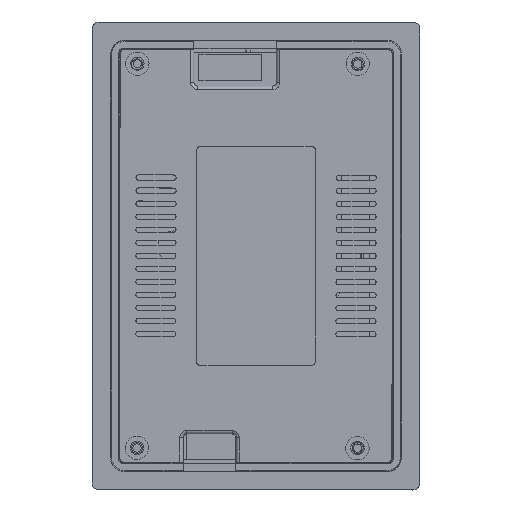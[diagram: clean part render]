
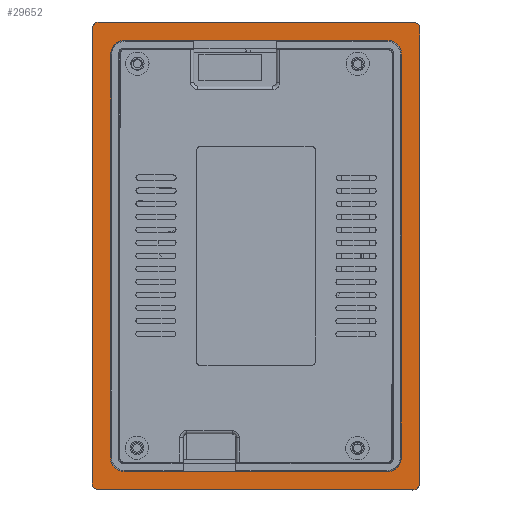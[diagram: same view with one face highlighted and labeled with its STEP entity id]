
A CAD part, top view. The second image highlights one B-rep face of the part: STEP entity #29652.
In plain terms, the highlighted planar face has unit normal (0, 0, 1).
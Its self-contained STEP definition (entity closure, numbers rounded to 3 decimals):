
#8795=CARTESIAN_POINT('',(-44.327,68.107,-2.9));
#8796=DIRECTION('',(0.,0.,1.));
#8797=DIRECTION('',(0.001,1.,0.));
#8798=AXIS2_PLACEMENT_3D('',#8795,#8796,#8797);
#8800=DIRECTION('',(-1.,0.001,0.));
#8801=VECTOR('',#8800,94.);
#8802=CARTESIAN_POINT('',(49.675,70.015,-2.9));
#8803=LINE('',#8802,#8801);
#8804=CARTESIAN_POINT('',(49.673,68.015,-2.9));
#8805=DIRECTION('',(0.,0.,1.));
#8806=DIRECTION('',(1.,-0.001,0.));
#8807=AXIS2_PLACEMENT_3D('',#8804,#8805,#8806);
#8809=DIRECTION('',(0.001,1.,0.));
#8810=VECTOR('',#8809,136.);
#8811=CARTESIAN_POINT('',(51.54,-67.987,-2.9));
#8812=LINE('',#8811,#8810);
#8813=CARTESIAN_POINT('',(49.54,-67.985,-2.9));
#8814=DIRECTION('',(0.,0.,1.));
#8815=DIRECTION('',(-0.001,-1.,0.));
#8816=AXIS2_PLACEMENT_3D('',#8813,#8814,#8815);
#8818=DIRECTION('',(1.,-0.001,0.));
#8819=VECTOR('',#8818,94.);
#8820=CARTESIAN_POINT('',(-44.462,-69.893,-2.9));
#8821=LINE('',#8820,#8819);
#8822=CARTESIAN_POINT('',(-44.46,-67.893,-2.9));
#8823=DIRECTION('',(0.,0.,1.));
#8824=DIRECTION('',(-1.,0.001,0.));
#8825=AXIS2_PLACEMENT_3D('',#8822,#8823,#8824);
#8827=DIRECTION('',(-0.001,-1.,0.));
#8828=VECTOR('',#8827,136.);
#8829=CARTESIAN_POINT('',(-46.327,68.109,-2.9));
#8830=LINE('',#8829,#8828);
#8831=CARTESIAN_POINT('',(-39.634,63.455,-2.9));
#8832=CARTESIAN_POINT('',(-39.381,63.707,-2.9));
#8833=CARTESIAN_POINT('',(-38.807,64.147,-2.9));
#8834=CARTESIAN_POINT('',(-37.807,64.56,-2.9));
#8835=CARTESIAN_POINT('',(-37.09,64.654,-2.9));
#8836=CARTESIAN_POINT('',(-36.733,64.653,-2.9));
#8838=CARTESIAN_POINT('',(-40.837,60.557,-2.9));
#8839=CARTESIAN_POINT('',(-40.837,60.914,-2.9));
#8840=CARTESIAN_POINT('',(-40.742,61.631,-2.9));
#8841=CARTESIAN_POINT('',(-40.327,62.63,-2.9));
#8842=CARTESIAN_POINT('',(-39.886,63.203,-2.9));
#8843=CARTESIAN_POINT('',(-39.634,63.455,-2.9));
#8845=DIRECTION('',(0.001,1.,0.));
#8846=VECTOR('',#8845,120.907);
#8847=CARTESIAN_POINT('',(-40.956,-60.35,-2.9));
#8848=LINE('',#8847,#8846);
#8849=CARTESIAN_POINT('',(-39.758,-63.25,-2.9));
#8850=CARTESIAN_POINT('',(-40.01,-62.997,-2.9));
#8851=CARTESIAN_POINT('',(-40.45,-62.423,-2.9));
#8852=CARTESIAN_POINT('',(-40.863,-61.424,-2.9));
#8853=CARTESIAN_POINT('',(-40.957,-60.707,-2.9));
#8854=CARTESIAN_POINT('',(-40.956,-60.35,-2.9));
#8856=CARTESIAN_POINT('',(-36.861,-64.454,-2.9));
#8857=CARTESIAN_POINT('',(-37.217,-64.453,-2.9));
#8858=CARTESIAN_POINT('',(-37.934,-64.358,-2.9));
#8859=CARTESIAN_POINT('',(-38.933,-63.943,-2.9));
#8860=CARTESIAN_POINT('',(-39.506,-63.503,-2.9));
#8861=CARTESIAN_POINT('',(-39.758,-63.25,-2.9));
#8863=DIRECTION('',(-1.,0.001,0.));
#8864=VECTOR('',#8863,78.807);
#8865=CARTESIAN_POINT('',(41.947,-64.531,-2.9));
#8866=LINE('',#8865,#8864);
#8867=CARTESIAN_POINT('',(44.847,-63.333,-2.9));
#8868=CARTESIAN_POINT('',(44.594,-63.585,-2.9));
#8869=CARTESIAN_POINT('',(44.02,-64.025,-2.9));
#8870=CARTESIAN_POINT('',(43.02,-64.438,-2.9));
#8871=CARTESIAN_POINT('',(42.303,-64.532,-2.9));
#8872=CARTESIAN_POINT('',(41.947,-64.531,-2.9));
#8874=CARTESIAN_POINT('',(46.05,-60.435,-2.9));
#8875=CARTESIAN_POINT('',(46.05,-60.792,-2.9));
#8876=CARTESIAN_POINT('',(45.955,-61.509,-2.9));
#8877=CARTESIAN_POINT('',(45.54,-62.508,-2.9));
#8878=CARTESIAN_POINT('',(45.099,-63.081,-2.9));
#8879=CARTESIAN_POINT('',(44.847,-63.333,-2.9));
#8881=DIRECTION('',(-0.001,-1.,0.));
#8882=VECTOR('',#8881,120.907);
#8883=CARTESIAN_POINT('',(46.169,60.472,-2.9));
#8884=LINE('',#8883,#8882);
#8885=CARTESIAN_POINT('',(44.971,63.372,-2.9));
#8886=CARTESIAN_POINT('',(45.224,63.119,-2.9));
#8887=CARTESIAN_POINT('',(45.663,62.545,-2.9));
#8888=CARTESIAN_POINT('',(46.076,61.546,-2.9));
#8889=CARTESIAN_POINT('',(46.17,60.829,-2.9));
#8890=CARTESIAN_POINT('',(46.169,60.472,-2.9));
#8892=CARTESIAN_POINT('',(42.074,64.576,-2.9));
#8893=CARTESIAN_POINT('',(42.43,64.575,-2.9));
#8894=CARTESIAN_POINT('',(43.147,64.48,-2.9));
#8895=CARTESIAN_POINT('',(44.146,64.065,-2.9));
#8896=CARTESIAN_POINT('',(44.719,63.625,-2.9));
#8897=CARTESIAN_POINT('',(44.971,63.372,-2.9));
#8899=DIRECTION('',(1.,-0.001,0.));
#8900=VECTOR('',#8899,78.807);
#8901=CARTESIAN_POINT('',(-36.733,64.653,-2.9));
#8902=LINE('',#8901,#8900);
#13278=CARTESIAN_POINT('',(-44.325,70.107,-2.9));
#13279=CARTESIAN_POINT('',(-46.327,68.109,-2.9));
#13280=VERTEX_POINT('',#13278);
#13281=VERTEX_POINT('',#13279);
#13282=CARTESIAN_POINT('',(-46.46,-67.891,-2.9));
#13283=VERTEX_POINT('',#13282);
#13284=CARTESIAN_POINT('',(-44.462,-69.893,-2.9));
#13285=VERTEX_POINT('',#13284);
#13286=CARTESIAN_POINT('',(49.538,-69.985,-2.9));
#13287=VERTEX_POINT('',#13286);
#13288=CARTESIAN_POINT('',(51.54,-67.987,-2.9));
#13289=VERTEX_POINT('',#13288);
#13290=CARTESIAN_POINT('',(51.673,68.013,-2.9));
#13291=VERTEX_POINT('',#13290);
#13292=CARTESIAN_POINT('',(49.675,70.015,-2.9));
#13293=VERTEX_POINT('',#13292);
#13294=VERTEX_POINT('',#8831);
#13295=VERTEX_POINT('',#8836);
#13296=CARTESIAN_POINT('',(42.074,64.576,-2.9));
#13297=VERTEX_POINT('',#13296);
#13298=VERTEX_POINT('',#8897);
#13299=VERTEX_POINT('',#8890);
#13300=CARTESIAN_POINT('',(46.05,-60.435,-2.9));
#13301=VERTEX_POINT('',#13300);
#13302=VERTEX_POINT('',#8879);
#13303=VERTEX_POINT('',#8872);
#13304=CARTESIAN_POINT('',(-36.861,-64.454,-2.9));
#13305=VERTEX_POINT('',#13304);
#13306=VERTEX_POINT('',#8861);
#13307=VERTEX_POINT('',#8854);
#13308=CARTESIAN_POINT('',(-40.837,60.557,-2.9));
#13309=VERTEX_POINT('',#13308);
#29615=CARTESIAN_POINT('',(0.,0.,-2.9));
#29616=DIRECTION('',(0.,0.,1.));
#29617=DIRECTION('',(1.,0.,0.));
#29618=AXIS2_PLACEMENT_3D('',#29615,#29616,#29617);
#29619=PLANE('',#29618);
#29621=ORIENTED_EDGE('',*,*,#29620,.F.);
#29623=ORIENTED_EDGE('',*,*,#29622,.F.);
#29625=ORIENTED_EDGE('',*,*,#29624,.F.);
#29627=ORIENTED_EDGE('',*,*,#29626,.F.);
#29629=ORIENTED_EDGE('',*,*,#29628,.F.);
#29631=ORIENTED_EDGE('',*,*,#29630,.F.);
#29633=ORIENTED_EDGE('',*,*,#29632,.F.);
#29635=ORIENTED_EDGE('',*,*,#29634,.F.);
#29636=EDGE_LOOP('',(#29621,#29623,#29625,#29627,#29629,#29631,#29633,#29635));
#29637=FACE_OUTER_BOUND('',#29636,.F.);
#29638=ORIENTED_EDGE('',*,*,#29396,.F.);
#29639=ORIENTED_EDGE('',*,*,#29418,.F.);
#29640=ORIENTED_EDGE('',*,*,#29433,.F.);
#29641=ORIENTED_EDGE('',*,*,#29456,.F.);
#29642=ORIENTED_EDGE('',*,*,#29477,.F.);
#29643=ORIENTED_EDGE('',*,*,#29492,.F.);
#29644=ORIENTED_EDGE('',*,*,#29515,.F.);
#29645=ORIENTED_EDGE('',*,*,#29536,.F.);
#29646=ORIENTED_EDGE('',*,*,#29551,.F.);
#29647=ORIENTED_EDGE('',*,*,#29574,.F.);
#29648=ORIENTED_EDGE('',*,*,#29595,.F.);
#29649=ORIENTED_EDGE('',*,*,#29609,.F.);
#29650=EDGE_LOOP('',(#29638,#29639,#29640,#29641,#29642,#29643,#29644,#29645,
#29646,#29647,#29648,#29649));
#29651=FACE_BOUND('',#29650,.F.);
#8799=CIRCLE('',#8798,2.);
#8808=CIRCLE('',#8807,2.);
#8817=CIRCLE('',#8816,2.);
#8826=CIRCLE('',#8825,2.);
#8837=B_SPLINE_CURVE_WITH_KNOTS('',3,(#8831,#8832,#8833,#8834,#8835,#8836),
.UNSPECIFIED.,.F.,.F.,(4,1,1,4),(0.,0.333,0.667,1.),
.UNSPECIFIED.);
#8844=B_SPLINE_CURVE_WITH_KNOTS('',3,(#8838,#8839,#8840,#8841,#8842,#8843),
.UNSPECIFIED.,.F.,.F.,(4,1,1,4),(0.,0.333,0.667,1.),
.UNSPECIFIED.);
#8855=B_SPLINE_CURVE_WITH_KNOTS('',3,(#8849,#8850,#8851,#8852,#8853,#8854),
.UNSPECIFIED.,.F.,.F.,(4,1,1,4),(0.,0.333,0.667,1.),
.UNSPECIFIED.);
#8862=B_SPLINE_CURVE_WITH_KNOTS('',3,(#8856,#8857,#8858,#8859,#8860,#8861),
.UNSPECIFIED.,.F.,.F.,(4,1,1,4),(0.,0.333,0.667,1.),
.UNSPECIFIED.);
#8873=B_SPLINE_CURVE_WITH_KNOTS('',3,(#8867,#8868,#8869,#8870,#8871,#8872),
.UNSPECIFIED.,.F.,.F.,(4,1,1,4),(0.,0.333,0.667,1.),
.UNSPECIFIED.);
#8880=B_SPLINE_CURVE_WITH_KNOTS('',3,(#8874,#8875,#8876,#8877,#8878,#8879),
.UNSPECIFIED.,.F.,.F.,(4,1,1,4),(0.,0.333,0.667,1.),
.UNSPECIFIED.);
#8891=B_SPLINE_CURVE_WITH_KNOTS('',3,(#8885,#8886,#8887,#8888,#8889,#8890),
.UNSPECIFIED.,.F.,.F.,(4,1,1,4),(0.,0.333,0.667,1.),
.UNSPECIFIED.);
#8898=B_SPLINE_CURVE_WITH_KNOTS('',3,(#8892,#8893,#8894,#8895,#8896,#8897),
.UNSPECIFIED.,.F.,.F.,(4,1,1,4),(0.,0.333,0.667,1.),
.UNSPECIFIED.);
#29396=EDGE_CURVE('',#13294,#13295,#8837,.T.);
#29418=EDGE_CURVE('',#13309,#13294,#8844,.T.);
#29433=EDGE_CURVE('',#13307,#13309,#8848,.T.);
#29456=EDGE_CURVE('',#13306,#13307,#8855,.T.);
#29477=EDGE_CURVE('',#13305,#13306,#8862,.T.);
#29492=EDGE_CURVE('',#13303,#13305,#8866,.T.);
#29515=EDGE_CURVE('',#13302,#13303,#8873,.T.);
#29536=EDGE_CURVE('',#13301,#13302,#8880,.T.);
#29551=EDGE_CURVE('',#13299,#13301,#8884,.T.);
#29574=EDGE_CURVE('',#13298,#13299,#8891,.T.);
#29595=EDGE_CURVE('',#13297,#13298,#8898,.T.);
#29609=EDGE_CURVE('',#13295,#13297,#8902,.T.);
#29620=EDGE_CURVE('',#13280,#13281,#8799,.T.);
#29622=EDGE_CURVE('',#13293,#13280,#8803,.T.);
#29624=EDGE_CURVE('',#13291,#13293,#8808,.T.);
#29626=EDGE_CURVE('',#13289,#13291,#8812,.T.);
#29628=EDGE_CURVE('',#13287,#13289,#8817,.T.);
#29630=EDGE_CURVE('',#13285,#13287,#8821,.T.);
#29632=EDGE_CURVE('',#13283,#13285,#8826,.T.);
#29634=EDGE_CURVE('',#13281,#13283,#8830,.T.);
#29652=ADVANCED_FACE('',(#29637,#29651),#29619,.T.);
